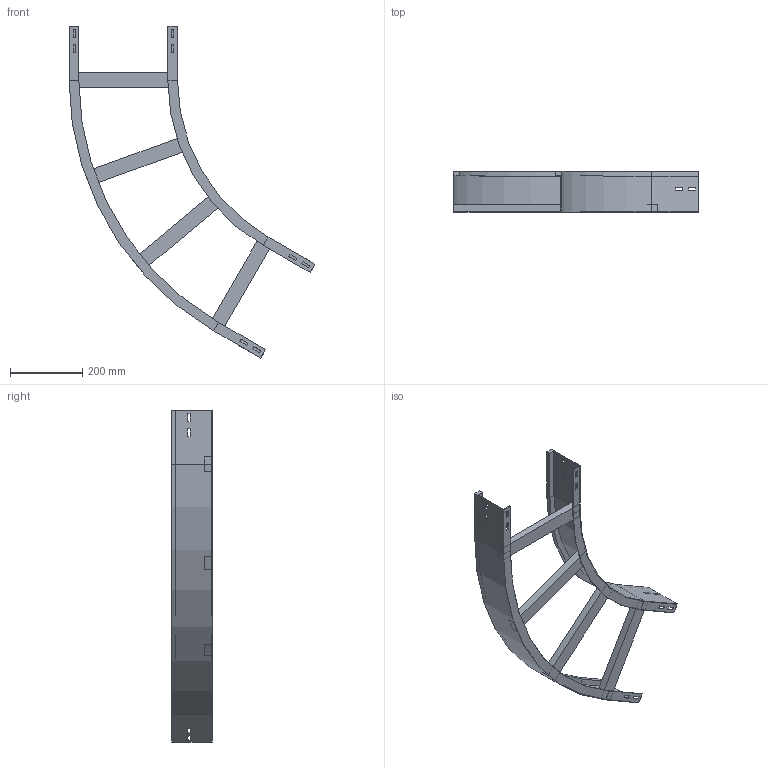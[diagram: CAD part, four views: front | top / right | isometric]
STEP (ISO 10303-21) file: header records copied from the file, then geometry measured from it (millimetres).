
FILE_DESCRIPTION (( 'STEP AP214' ), '1' );
FILE_NAME ('13B5J300.step', '2025-02-21T15:18:50', ( '' ), ( '' ), 'SwSTEP 2.0', 'SolidWorks 2023', '' );
FILE_SCHEMA (( 'AUTOMOTIVE_DESIGN' ));
Length unit declared in the file: millimetre
Products named in the file (4): A2_LONGH.INTERNO 60°_H112.5_R500; TRAVERSINO_300; A2_LONGH.ESTERNO 60°_H112.5_R500+300; 13B5J300
Assembly tree (6 placements, depth 2):
  13B5J300
    A2_LONGH.INTERNO 60°_H112.5_R500
    A2_LONGH.ESTERNO 60°_H112.5_R500+300
    TRAVERSINO_300  x4
Bounding box: 679.9 x 112.5 x 917.82 mm (x, y, z)
Volume: 1870065.6 mm3; surface area: 758522 mm2
Topology: 6 solids, 6 shells, 140 faces, 352 edges, 224 vertices
Faces by surface type: plane 132, cylinder 8
Entity records: 3829 total; most frequent: CARTESIAN_POINT 647, ORIENTED_EDGE 632, DIRECTION 594, EDGE_CURVE 316, LINE 300, VECTOR 300, VERTEX_POINT 200, EDGE_LOOP 154
